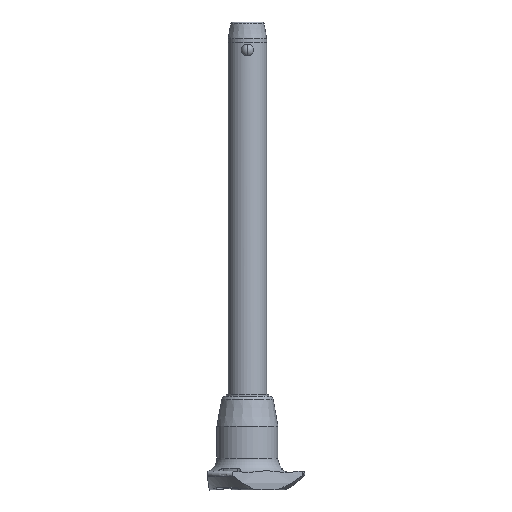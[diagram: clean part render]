
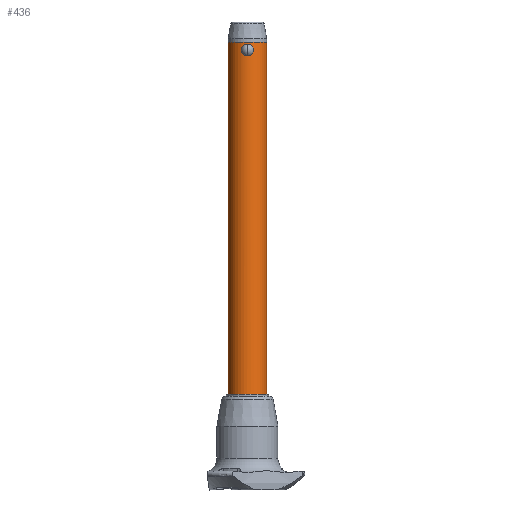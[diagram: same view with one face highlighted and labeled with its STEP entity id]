
A CAD part, front view. The second image highlights one B-rep face of the part: STEP entity #436.
In plain terms, the highlighted cylindrical face has radius 8 mm (diameter 16 mm), a partial arc.
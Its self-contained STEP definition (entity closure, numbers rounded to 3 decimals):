
#1 = CARTESIAN_POINT ( 'NONE',  ( -2.211, -7.69, 1.148 ) ) ;
#13 = CARTESIAN_POINT ( 'NONE',  ( -0.324, -8., 0. ) ) ;
#107 = VERTEX_POINT ( 'NONE', #2730 ) ;
#120 = EDGE_CURVE ( 'NONE', #107, #232, #1261, .T. ) ;
#126 = CARTESIAN_POINT ( 'NONE',  ( 1.894, -7.773, 0.773 ) ) ;
#142 = CARTESIAN_POINT ( 'NONE',  ( 2.41, -7.629, 3.184 ) ) ;
#206 = FACE_OUTER_BOUND ( 'NONE', #1034, .T. ) ;
#220 = CYLINDRICAL_SURFACE ( 'NONE', #1824, 8. ) ;
#232 = VERTEX_POINT ( 'NONE', #1404 ) ;
#240 = CARTESIAN_POINT ( 'NONE',  ( -2.276, -7.67, 3.482 ) ) ;
#267 = CARTESIAN_POINT ( 'NONE',  ( 0., -8., 4.775 ) ) ;
#270 = CARTESIAN_POINT ( 'NONE',  ( 8., 0., 5.6 ) ) ;
#288 = CARTESIAN_POINT ( 'NONE',  ( -8., 0., -140. ) ) ;
#349 = CARTESIAN_POINT ( 'NONE',  ( 0.324, -8., 0. ) ) ;
#358 = EDGE_CURVE ( 'NONE', #2612, #2668, #1772, .T. ) ;
#365 = CARTESIAN_POINT ( 'NONE',  ( 1.108, -7.924, 4.548 ) ) ;
#380 = EDGE_CURVE ( 'NONE', #2612, #2094, #1329, .T. ) ;
#388 = DIRECTION ( 'NONE',  ( 0., 0., 1. ) ) ;
#435 = CARTESIAN_POINT ( 'NONE',  ( 2.546, -7.584, 2.22 ) ) ;
#436 = ADVANCED_FACE ( 'NONE', ( #206, #2235 ), #220, .T. ) ;
#442 = CARTESIAN_POINT ( 'NONE',  ( -2.408, -7.629, 3.189 ) ) ;
#474 = EDGE_CURVE ( 'NONE', #2768, #2094, #742, .T. ) ;
#490 = CARTESIAN_POINT ( 'NONE',  ( -1.896, -7.773, 4.001 ) ) ;
#594 = CARTESIAN_POINT ( 'NONE',  ( 2.211, -7.69, 3.626 ) ) ;
#634 = DIRECTION ( 'NONE',  ( 1., 0., 0. ) ) ;
#640 = ORIENTED_EDGE ( 'NONE', *, *, #474, .F. ) ;
#659 = ORIENTED_EDGE ( 'NONE', *, *, #2403, .F. ) ;
#668 = CARTESIAN_POINT ( 'NONE',  ( 1.529, -7.854, 4.312 ) ) ;
#669 = ORIENTED_EDGE ( 'NONE', *, *, #358, .F. ) ;
#675 = CARTESIAN_POINT ( 'NONE',  ( -1.658, -7.827, 4.216 ) ) ;
#682 = CARTESIAN_POINT ( 'NONE',  ( 0.645, -7.976, 4.704 ) ) ;
#688 = CARTESIAN_POINT ( 'NONE',  ( -2.411, -7.628, 1.592 ) ) ;
#696 = CARTESIAN_POINT ( 'NONE',  ( 0.164, -8., 4.775 ) ) ;
#742 = CIRCLE ( 'NONE', #1255, 8. ) ;
#813 = CARTESIAN_POINT ( 'NONE',  ( 2.016, -7.746, 3.891 ) ) ;
#830 = DIRECTION ( 'NONE',  ( 1., 0., 0. ) ) ;
#894 = CARTESIAN_POINT ( 'NONE',  ( -1.252, -7.903, 4.479 ) ) ;
#901 = CARTESIAN_POINT ( 'NONE',  ( 2.408, -7.629, 1.586 ) ) ;
#909 = CARTESIAN_POINT ( 'NONE',  ( -1.659, -7.827, 0.559 ) ) ;
#921 = CARTESIAN_POINT ( 'NONE',  ( 0., -8., 0. ) ) ;
#1012 = CARTESIAN_POINT ( 'NONE',  ( -8., 0., -140. ) ) ;
#1034 = EDGE_LOOP ( 'NONE', ( #1472, #669, #1511, #640 ) ) ;
#1059 = DIRECTION ( 'NONE',  ( 1., 0., 0. ) ) ;
#1067 = EDGE_LOOP ( 'NONE', ( #1557, #659 ) ) ;
#1107 = CARTESIAN_POINT ( 'NONE',  ( 1.253, -7.903, 4.478 ) ) ;
#1111 = DIRECTION ( 'NONE',  ( 0., 0., 1. ) ) ;
#1115 = CARTESIAN_POINT ( 'NONE',  ( -0.164, -8., 4.775 ) ) ;
#1122 = CARTESIAN_POINT ( 'NONE',  ( 1.657, -7.827, 0.558 ) ) ;
#1128 = CARTESIAN_POINT ( 'NONE',  ( 0., 0., -140. ) ) ;
#1146 = CARTESIAN_POINT ( 'NONE',  ( -1.527, -7.854, 4.313 ) ) ;
#1158 = CARTESIAN_POINT ( 'NONE',  ( -1.107, -7.924, 4.548 ) ) ;
#1173 = CARTESIAN_POINT ( 'NONE',  ( -0.803, -7.961, 4.661 ) ) ;
#1193 = DIRECTION ( 'NONE',  ( 0., 0., 1. ) ) ;
#1253 = CARTESIAN_POINT ( 'NONE',  ( 0.652, -7.979, 0.058 ) ) ;
#1255 = AXIS2_PLACEMENT_3D ( 'NONE', #1999, #388, #1059 ) ;
#1261 = B_SPLINE_CURVE_WITH_KNOTS ( 'NONE', 3,
 ( #267, #1115, #2270, #2911, #1173, #1158, #894, #1146, #675, #490, #1835, #2459, #240, #442, #1587, #1346, #2472, #2280, #2027, #2069, #688, #1, #1363, #909, #2257, #2700, #2039, #1387, #13, #921 ),
 .UNSPECIFIED., .F., .F.,
 ( 4, 2, 2, 2, 2, 2, 2, 2, 2, 2, 2, 2, 2, 2, 4 ),
 ( 0., 0., 0.001, 0.001, 0.002, 0.002, 0.003, 0.003, 0.004, 0.004, 0.005, 0.006, 0.006, 0.007, 0.008 ),
 .UNSPECIFIED. ) ;
#1329 = LINE ( 'NONE', #1556, #2145 ) ;
#1346 = CARTESIAN_POINT ( 'NONE',  ( -2.529, -7.59, 2.716 ) ) ;
#1353 = CARTESIAN_POINT ( 'NONE',  ( 2.461, -7.612, 3.027 ) ) ;
#1363 = CARTESIAN_POINT ( 'NONE',  ( -2.016, -7.746, 0.883 ) ) ;
#1387 = CARTESIAN_POINT ( 'NONE',  ( -0.652, -7.979, 0.058 ) ) ;
#1404 = CARTESIAN_POINT ( 'NONE',  ( 0., -8., 0. ) ) ;
#1425 = EDGE_CURVE ( 'NONE', #2668, #2768, #2306, .T. ) ;
#1472 = ORIENTED_EDGE ( 'NONE', *, *, #1425, .F. ) ;
#1511 = ORIENTED_EDGE ( 'NONE', *, *, #380, .T. ) ;
#1531 = DIRECTION ( 'NONE',  ( 0., 0., 1. ) ) ;
#1556 = CARTESIAN_POINT ( 'NONE',  ( 8., 0., -140. ) ) ;
#1557 = ORIENTED_EDGE ( 'NONE', *, *, #120, .F. ) ;
#1570 = B_SPLINE_CURVE_WITH_KNOTS ( 'NONE', 3,
 ( #2363, #349, #1253, #1856, #1932, #2019, #1122, #126, #2827, #2920, #2707, #901, #1721, #2001, #435, #2619, #2163, #1353, #142, #594, #813, #2679, #668, #1107, #365, #1707, #682, #2602, #696, #2149 ),
 .UNSPECIFIED., .F., .F.,
 ( 4, 2, 2, 2, 2, 2, 2, 2, 2, 2, 2, 2, 2, 2, 4 ),
 ( 0.008, 0.009, 0.009, 0.01, 0.01, 0.011, 0.011, 0.012, 0.012, 0.013, 0.014, 0.014, 0.015, 0.015, 0.016 ),
 .UNSPECIFIED. ) ;
#1587 = CARTESIAN_POINT ( 'NONE',  ( -2.459, -7.613, 3.036 ) ) ;
#1707 = CARTESIAN_POINT ( 'NONE',  ( 0.804, -7.961, 4.661 ) ) ;
#1721 = CARTESIAN_POINT ( 'NONE',  ( 2.46, -7.613, 1.742 ) ) ;
#1772 = CIRCLE ( 'NONE', #2283, 8. ) ;
#1824 = AXIS2_PLACEMENT_3D ( 'NONE', #1128, #1531, #634 ) ;
#1835 = CARTESIAN_POINT ( 'NONE',  ( -2.003, -7.746, 3.882 ) ) ;
#1856 = CARTESIAN_POINT ( 'NONE',  ( 1.105, -7.925, 0.226 ) ) ;
#1932 = CARTESIAN_POINT ( 'NONE',  ( 1.252, -7.903, 0.296 ) ) ;
#1999 = CARTESIAN_POINT ( 'NONE',  ( 0., 0., 5.6 ) ) ;
#2001 = CARTESIAN_POINT ( 'NONE',  ( 2.528, -7.59, 2.058 ) ) ;
#2019 = CARTESIAN_POINT ( 'NONE',  ( 1.529, -7.854, 0.463 ) ) ;
#2027 = CARTESIAN_POINT ( 'NONE',  ( -2.529, -7.59, 2.064 ) ) ;
#2039 = CARTESIAN_POINT ( 'NONE',  ( -1.106, -7.925, 0.226 ) ) ;
#2069 = CARTESIAN_POINT ( 'NONE',  ( -2.461, -7.612, 1.746 ) ) ;
#2094 = VERTEX_POINT ( 'NONE', #270 ) ;
#2145 = VECTOR ( 'NONE', #1111, 1000. ) ;
#2149 = CARTESIAN_POINT ( 'NONE',  ( 0., -8., 4.775 ) ) ;
#2163 = CARTESIAN_POINT ( 'NONE',  ( 2.529, -7.59, 2.71 ) ) ;
#2235 = FACE_BOUND ( 'NONE', #1067, .T. ) ;
#2257 = CARTESIAN_POINT ( 'NONE',  ( -1.53, -7.854, 0.464 ) ) ;
#2261 = CARTESIAN_POINT ( 'NONE',  ( 8., 0., -140. ) ) ;
#2270 = CARTESIAN_POINT ( 'NONE',  ( -0.326, -7.995, 4.761 ) ) ;
#2280 = CARTESIAN_POINT ( 'NONE',  ( -2.547, -7.584, 2.229 ) ) ;
#2283 = AXIS2_PLACEMENT_3D ( 'NONE', #2845, #2604, #830 ) ;
#2306 = LINE ( 'NONE', #288, #2719 ) ;
#2363 = CARTESIAN_POINT ( 'NONE',  ( 0., -8., 0. ) ) ;
#2388 = CARTESIAN_POINT ( 'NONE',  ( -8., 0., 5.6 ) ) ;
#2403 = EDGE_CURVE ( 'NONE', #232, #107, #1570, .T. ) ;
#2459 = CARTESIAN_POINT ( 'NONE',  ( -2.193, -7.694, 3.623 ) ) ;
#2472 = CARTESIAN_POINT ( 'NONE',  ( -2.546, -7.584, 2.553 ) ) ;
#2602 = CARTESIAN_POINT ( 'NONE',  ( 0.326, -7.995, 4.761 ) ) ;
#2604 = DIRECTION ( 'NONE',  ( 0., 0., -1. ) ) ;
#2612 = VERTEX_POINT ( 'NONE', #2261 ) ;
#2619 = CARTESIAN_POINT ( 'NONE',  ( 2.547, -7.584, 2.549 ) ) ;
#2668 = VERTEX_POINT ( 'NONE', #1012 ) ;
#2679 = CARTESIAN_POINT ( 'NONE',  ( 1.66, -7.827, 4.215 ) ) ;
#2700 = CARTESIAN_POINT ( 'NONE',  ( -1.254, -7.902, 0.297 ) ) ;
#2707 = CARTESIAN_POINT ( 'NONE',  ( 2.275, -7.67, 1.291 ) ) ;
#2719 = VECTOR ( 'NONE', #1193, 1000. ) ;
#2730 = CARTESIAN_POINT ( 'NONE',  ( 0., -8., 4.775 ) ) ;
#2768 = VERTEX_POINT ( 'NONE', #2388 ) ;
#2827 = CARTESIAN_POINT ( 'NONE',  ( 2.004, -7.746, 0.894 ) ) ;
#2845 = CARTESIAN_POINT ( 'NONE',  ( 0., 0., -140. ) ) ;
#2911 = CARTESIAN_POINT ( 'NONE',  ( -0.645, -7.976, 4.704 ) ) ;
#2920 = CARTESIAN_POINT ( 'NONE',  ( 2.194, -7.694, 1.153 ) ) ;
